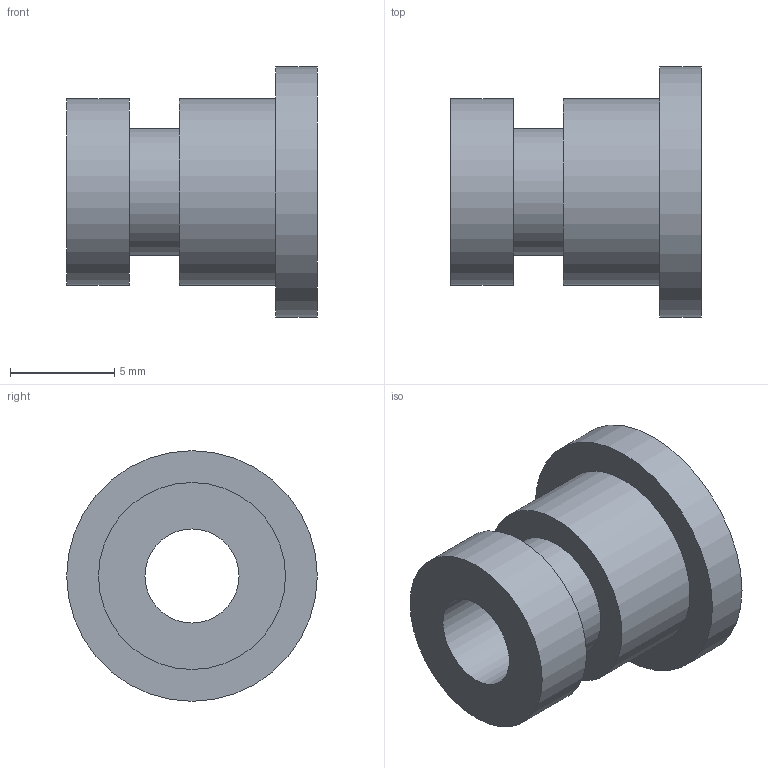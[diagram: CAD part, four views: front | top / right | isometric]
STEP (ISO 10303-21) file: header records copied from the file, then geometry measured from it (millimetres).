
FILE_DESCRIPTION(('Open CASCADE Model'),'2;1');
FILE_NAME('Open CASCADE Shape Model','2026-10-31T23:30:31',('Author'),( 'Open CASCADE'),'Open CASCADE STEP processor 7.9','Open CASCADE 7.9' ,'Unknown');
FILE_SCHEMA(('AUTOMOTIVE_DESIGN { 1 0 10303 214 1 1 1 1 }'));
Length unit declared in the file: millimetre
Products named in the file (1): Open CASCADE STEP translator 7.9 11
Bounding box: 12 x 12 x 12 mm (x, y, z)
Volume: 583.2 mm3; surface area: 766.7 mm2
Topology: 1 solids, 1 shells, 10 faces, 15 edges, 10 vertices
Faces by surface type: cylinder 5, plane 5
Full cylindrical faces by diameter (mm): 4.5 x1, 6.08 x1, 8.95 x2, 12 x1
Entity records: 450 total; most frequent: CARTESIAN_POINT 90, DIRECTION 73, ORIENTED_EDGE 30, PCURVE 30, DEFINITIONAL_REPRESENTATION 30, LINE 25, VECTOR 25, AXIS2_PLACEMENT_3D 21
